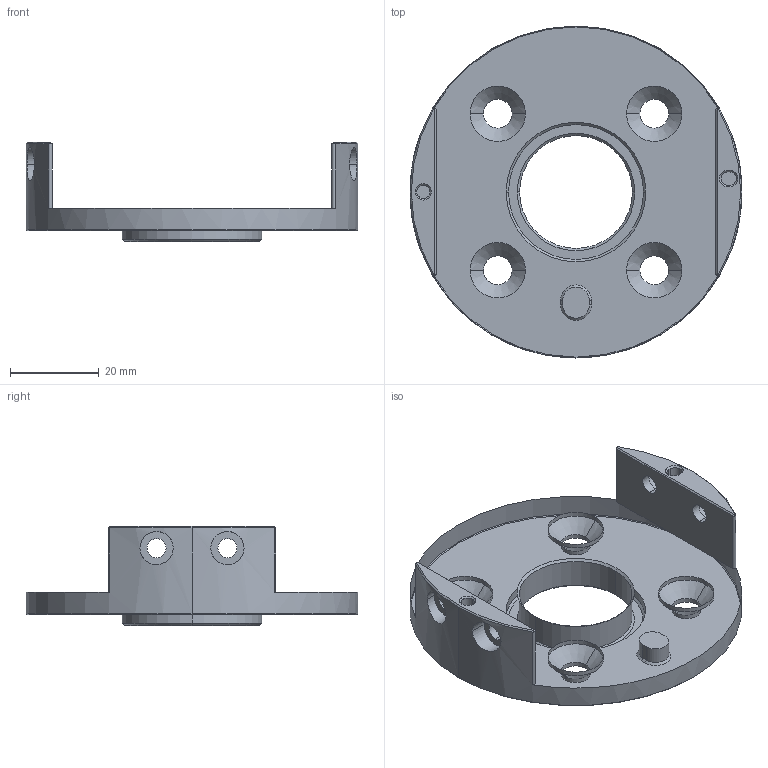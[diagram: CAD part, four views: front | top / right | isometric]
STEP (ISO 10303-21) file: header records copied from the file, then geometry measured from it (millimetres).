
FILE_DESCRIPTION (( 'STEP AP203' ), '1' );
FILE_NAME ('楊擘-PGC140.STEP', '2023-09-23T04:11:48', ( '' ), ( '' ), 'SwSTEP 2.0', 'SolidWorks 2020', '' );
FILE_SCHEMA (( 'CONFIG_CONTROL_DESIGN' ));
Length unit declared in the file: millimetre
Products named in the file (1): 楊擘-PGC140
Bounding box: 75 x 75 x 22.4 mm (x, y, z)
Volume: 22603.2 mm3; surface area: 12579.9 mm2
Topology: 1 solids, 1 shells, 103 faces, 235 edges, 142 vertices
Faces by surface type: cylinder 49, cone 30, plane 24
Entity records: 3254 total; most frequent: CARTESIAN_POINT 745, DIRECTION 551, ORIENTED_EDGE 470, EDGE_CURVE 235, AXIS2_PLACEMENT_3D 220, VERTEX_POINT 142, EDGE_LOOP 129, CIRCLE 116
